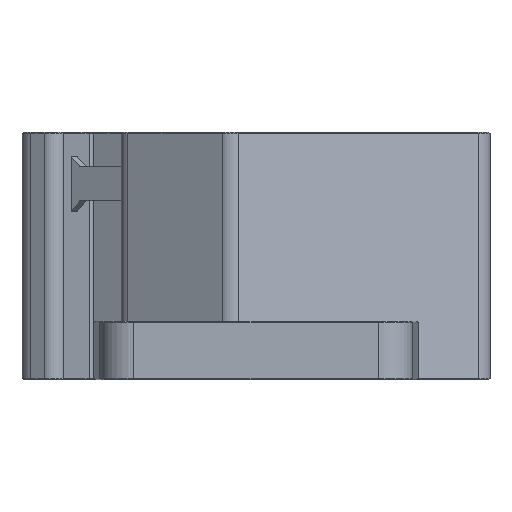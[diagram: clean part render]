
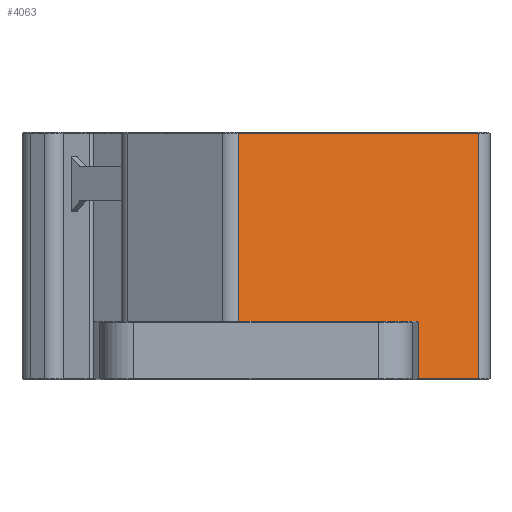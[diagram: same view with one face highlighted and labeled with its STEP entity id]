
A CAD part, left-side view. The second image highlights one B-rep face of the part: STEP entity #4063.
In plain terms, the highlighted planar face has unit normal (-0.904, -0.427, 0).
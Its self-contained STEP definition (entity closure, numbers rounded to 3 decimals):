
#486=FACE_OUTER_BOUND('',#741,.T.);
#741=EDGE_LOOP('',(#3202,#3203,#3204,#3205));
#888=LINE('',#5741,#1286);
#1026=LINE('',#6862,#1424);
#1087=LINE('',#7397,#1485);
#1088=LINE('',#7399,#1486);
#1286=VECTOR('',#4623,10.);
#1424=VECTOR('',#5013,10.);
#1485=VECTOR('',#5160,10.);
#1486=VECTOR('',#5163,10.);
#1679=VERTEX_POINT('',#5725);
#1683=VERTEX_POINT('',#5737);
#1835=VERTEX_POINT('',#6852);
#1837=VERTEX_POINT('',#6858);
#2040=EDGE_CURVE('',#1679,#1683,#888,.T.);
#2274=EDGE_CURVE('',#1835,#1837,#1026,.T.);
#2361=EDGE_CURVE('',#1837,#1679,#1087,.T.);
#2362=EDGE_CURVE('',#1835,#1683,#1088,.T.);
#3202=ORIENTED_EDGE('',*,*,#2040,.F.);
#3203=ORIENTED_EDGE('',*,*,#2361,.F.);
#3204=ORIENTED_EDGE('',*,*,#2274,.F.);
#3205=ORIENTED_EDGE('',*,*,#2362,.T.);
#3872=PLANE('',#4399);
#4063=ADVANCED_FACE('',(#486),#3872,.T.);
#4399=AXIS2_PLACEMENT_3D('',#7398,#5161,#5162);
#4623=DIRECTION('',(0.427,-0.904,0.));
#5013=DIRECTION('',(-0.427,0.904,0.));
#5160=DIRECTION('',(0.,0.,1.));
#5161=DIRECTION('center_axis',(-0.904,-0.427,0.));
#5162=DIRECTION('ref_axis',(0.427,-0.904,0.));
#5163=DIRECTION('',(0.,0.,1.));
#5725=CARTESIAN_POINT('',(-120.353,5.224,71.7));
#5737=CARTESIAN_POINT('',(-87.393,-64.549,71.7));
#5741=CARTESIAN_POINT('',(-113.883,-8.471,71.7));
#6852=CARTESIAN_POINT('',(-87.393,-64.549,0.3));
#6858=CARTESIAN_POINT('',(-120.353,5.224,0.3));
#6862=CARTESIAN_POINT('',(-113.883,-8.471,0.3));
#7397=CARTESIAN_POINT('',(-120.353,5.224,0.));
#7398=CARTESIAN_POINT('Origin',(-120.353,5.224,0.));
#7399=CARTESIAN_POINT('',(-87.393,-64.549,0.));
